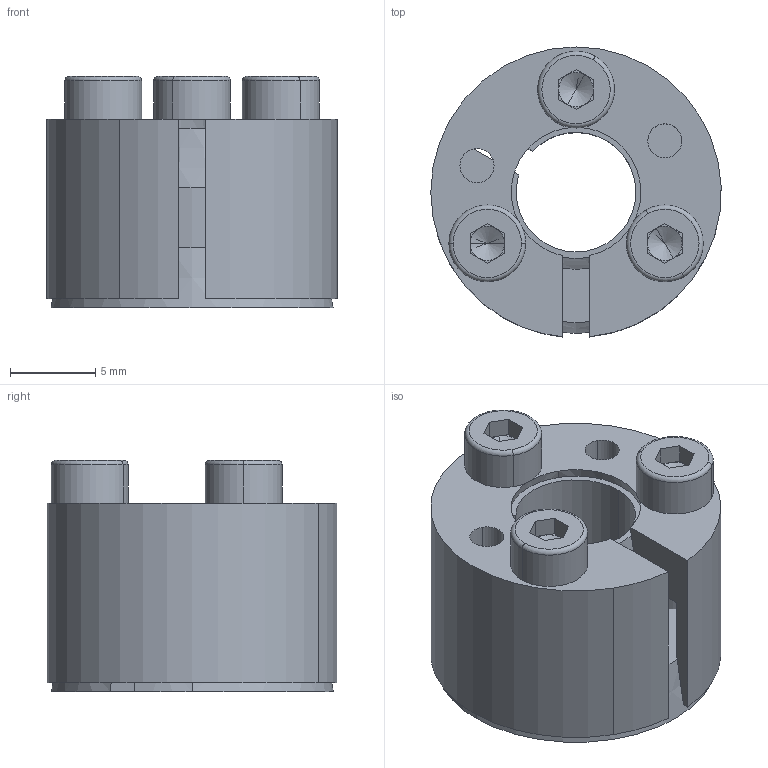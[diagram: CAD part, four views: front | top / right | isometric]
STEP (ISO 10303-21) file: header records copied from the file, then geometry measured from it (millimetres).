
FILE_DESCRIPTION (( 'STEP AP214' ), '1' );
FILE_NAME ('CONEX-K-7x17.step', '2013-04-06T13:20:13', ( 'Pc' ), ( '' ), 'SwSTEP 2.0', 'SolidWorks 2013', '' );
FILE_SCHEMA (( 'AUTOMOTIVE_DESIGN' ));
Length unit declared in the file: millimetre
Products named in the file (1): CONEX-K-7x17
Bounding box: 16.99 x 16.96 x 13.52 mm (x, y, z)
Volume: 1654.3 mm3; surface area: 2794.5 mm2
Topology: 5 solids, 5 shells, 131 faces, 308 edges, 187 vertices
Faces by surface type: plane 55, cylinder 40, cone 24, torus 12
Entity records: 5269 total; most frequent: DIRECTION 704, CARTESIAN_POINT 645, ORIENTED_EDGE 604, EDGE_CURVE 302, AXIS2_PLACEMENT_3D 278, VERTEX_POINT 187, EDGE_LOOP 153, LINE 148
